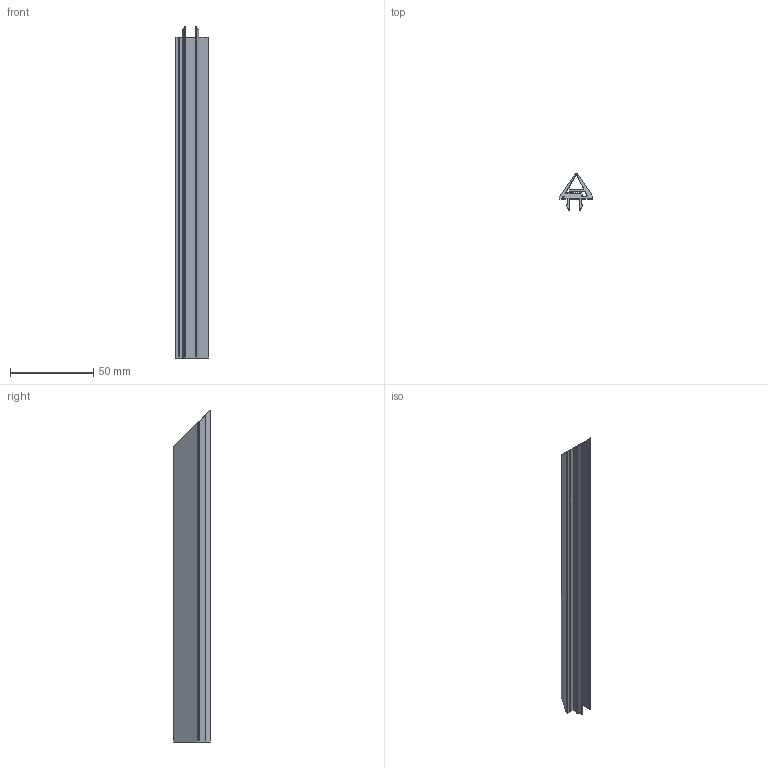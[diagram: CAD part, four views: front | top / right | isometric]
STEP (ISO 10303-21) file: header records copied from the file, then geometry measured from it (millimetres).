
FILE_DESCRIPTION(/* description */ (''),/* implementation_level */ '2;1');
FILE_NAME(/* name */ 'D:\cadd\new~產品型錄\配件\8系列\AMG-08.stp',/* time_stamp */ '2016-12-09T14:25:05+08:00',/* author */ ('Owner'),/* organization */ (''),/* preprocessor_version */ 'ST-DEVELOPER v15.2',/* originating_system */ 'Autodesk Inventor 2014',/* authorisation */ '');
FILE_SCHEMA (('AUTOMOTIVE_DESIGN { 1 0 10303 214 3 1 1 }'));
Length unit declared in the file: millimetre
Products named in the file (1): AMG-08
Bounding box: 20 x 22.05 x 200 mm (x, y, z)
Volume: 23905.1 mm3; surface area: 30555.3 mm2
Topology: 1 solids, 1 shells, 96 faces, 282 edges, 188 vertices
Faces by surface type: plane 65, cylinder 31
Entity records: 3213 total; most frequent: CARTESIAN_POINT 567, ORIENTED_EDGE 564, DIRECTION 542, EDGE_CURVE 282, LINE 216, VECTOR 216, VERTEX_POINT 188, AXIS2_PLACEMENT_3D 163
